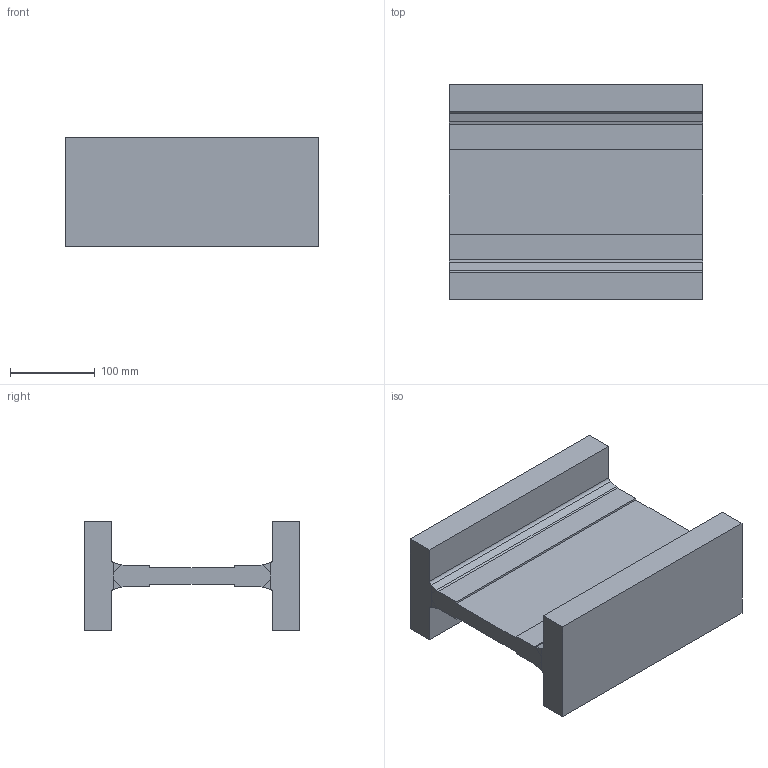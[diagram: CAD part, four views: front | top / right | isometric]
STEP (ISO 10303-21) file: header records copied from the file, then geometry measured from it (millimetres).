
FILE_DESCRIPTION((''),'2;1');
FILE_NAME('Z:\Kataloge\Katalog 109\Inventor-Dateien\Mammutrollen+MPI+MPU-Profile\ALFATEC_MPI_190_0816.stp','2009-11-09T16:00:10',('Kircher'),(''),'Autodesk Inventor 2010','Autodesk Inventor 2010','');
FILE_SCHEMA(('CONFIG_CONTROL_DESIGN'));
Length unit declared in the file: millimetre
Products named in the file (4): ALFATEC_MPI_190_0816; ALFATEC_MPI_190_0816-Teil 1; ALFATEC_MPI_190_0816-Teil 2; ALFATEC_MPI_190_0816-Teil 3
Assembly tree (3 placements, depth 2):
  ALFATEC_MPI_190_0816
    ALFATEC_MPI_190_0816-Teil 1
    ALFATEC_MPI_190_0816-Teil 2
    ALFATEC_MPI_190_0816-Teil 3
Bounding box: 300 x 255 x 130 mm (x, y, z)
Volume: 3835739.4 mm3; surface area: 387162.2 mm2
Topology: 7 solids, 7 shells, 62 faces, 144 edges, 96 vertices
Faces by surface type: plane 58, cylinder 4
Entity records: 1856 total; most frequent: CARTESIAN_POINT 309, DIRECTION 290, ORIENTED_EDGE 288, EDGE_CURVE 144, VECTOR 136, LINE 136, VERTEX_POINT 96, AXIS2_PLACEMENT_3D 77
